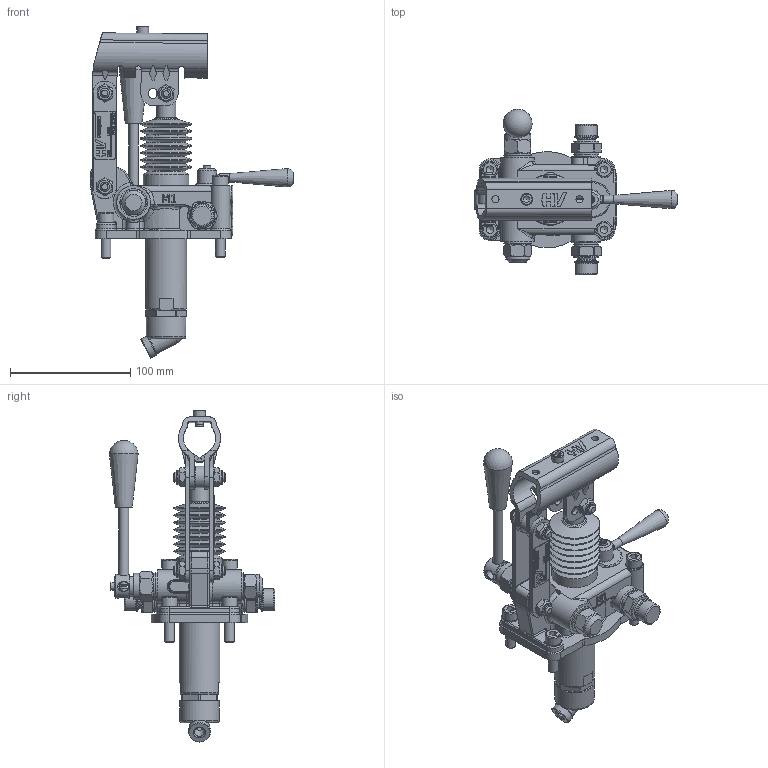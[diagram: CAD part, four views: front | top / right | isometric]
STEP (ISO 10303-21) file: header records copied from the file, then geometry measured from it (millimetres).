
FILE_DESCRIPTION((''),'2;1');
FILE_NAME('G:\HV_HYDRAULIC\AZIENDA_HV_HYDRAULIC\ARCHIVIO_DISEGNI\5_PRODOTTI_FINITI\1_POMPE_MANUALI\6056_PMD_25\6056.0053_PMD_25_dna-byA-L-s_(HV)\6056.0053.stp','2024-03-04T08:47:15',('christian.scardovi'),(''),'Autodesk Inventor 2013','Autodesk Inventor 2013','');
FILE_SCHEMA(('AUTOMOTIVE_DESIGN { 1 0 10303 214 1 1 1 1 }'));
Length unit declared in the file: millimetre
Products named in the file (1): 6056.0053
Bounding box: 169 x 137.49 x 276.08 mm (x, y, z)
Surface area: 137992.7 mm2
Topology: 2 solids, 3 shells, 1614 faces, 4092 edges, 2595 vertices
Faces by surface type: plane 780, cylinder 347, bspline 184, cone 177, torus 111, sphere 15
Full cylindrical faces by diameter (mm): 4 x2, 4.917 x2, 5 x9, 6 x8, 6.5 x1, 7 x1, 8 x18, 8.566 x1, 9 x3, 9.2 x1, 10 x4, 10.376 x1, 11.05 x6, 11.445 x2, 12 x5, 13 x4, 13.2 x1, 14 x4, 14.95 x3, 15.9 x2, 16 x7, 16.6 x4, 17 x1, 17.6 x1, 18 x6, 19 x2, 20 x5, 21 x6, 21.8 x2, 22 x1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
Entity records: 50415 total; most frequent: CARTESIAN_POINT 13060, ORIENTED_EDGE 7362, DIRECTION 6883, EDGE_CURVE 3681, AXIS2_PLACEMENT_3D 2481, VERTEX_POINT 2479, EDGE_LOOP 2064, VECTOR 1921
